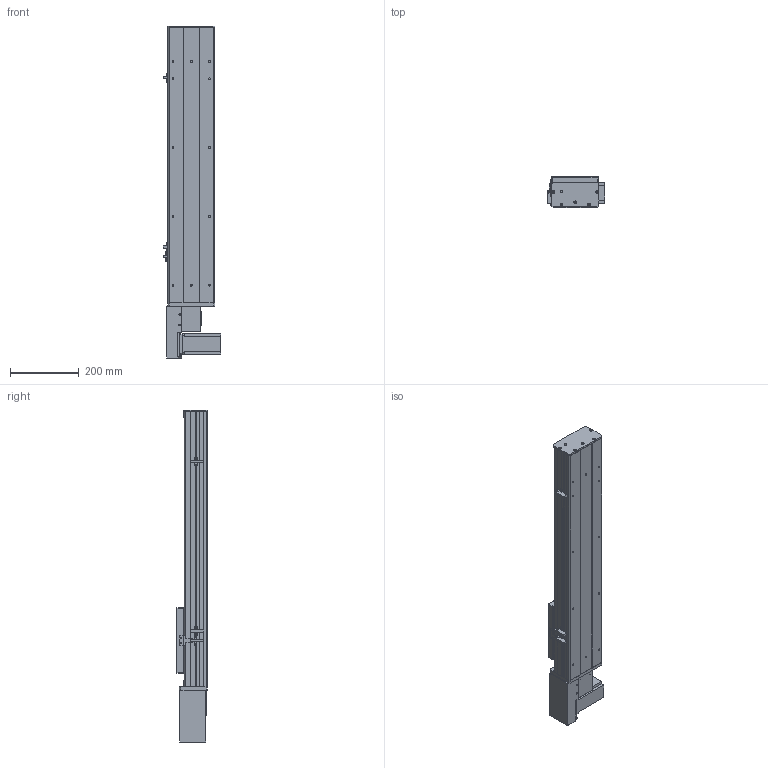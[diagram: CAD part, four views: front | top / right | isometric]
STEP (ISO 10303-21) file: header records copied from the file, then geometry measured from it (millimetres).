
FILE_DESCRIPTION (( 'STEP AP203' ), '1' );
FILE_NAME ('Y135CB-D90-S500-BR-P400W.STEP', '2020-02-18T02:13:29', ( '微软用户' ), ( '微软中国' ), 'SwSTEP 2.0', 'SolidWorks 2017', '' );
FILE_SCHEMA (( 'CONFIG_CONTROL_DESIGN' ));
Length unit declared in the file: millimetre
Products named in the file (18): 0B-萇儂楊擘啣; san松下电机400不带刹车----; Y135CB-耜裔; 5CB --掛极耜裔啣-; 135CB---遴掛极.-; C-詩湍揤踡え-陔; 35CB---喘謫眊楊擘啣; 5C--俋欶; 135CB--詩湍-CE; Y10B-耜蚾蟀諉啣----; C-雄赽釱--; Y100-135俋离換覜ん--; Y俋欶BR----; Y10B--々湍喘謫眊--666; Y135C-陔俋离換覜結え-; 0B-埴倛裔啣; Y135CB-D90-S500-BR-P400W; 0B-源倛裔啣
Assembly tree (21 placements, depth 2):
  Y135CB-D90-S500-BR-P400W
    Y135CB-耜裔
    135CB---遴掛极.-
    35CB---喘謫眊楊擘啣
    Y10B-耜蚾蟀諉啣----
    Y俋欶BR----
    0B-埴倛裔啣
    0B-源倛裔啣
    0B-萇儂楊擘啣
    san松下电机400不带刹车----
    5CB --掛极耜裔啣-  x2
    C-詩湍揤踡え-陔  x2
    135CB--詩湍-CE
    Y100-135俋离換覜ん--  x3
    Y135C-陔俋离換覜結え-
    5C--俋欶
    C-雄赽釱--
    Y10B--々湍喘謫眊--666
Bounding box: 167.5 x 91 x 964.5 mm (x, y, z)
Volume: 3088732.8 mm3; surface area: 1196116.2 mm2
Topology: 21 solids, 21 shells, 937 faces, 2491 edges, 1650 vertices
Faces by surface type: cylinder 463, plane 458, cone 16
Entity records: 28937 total; most frequent: DIRECTION 4803, CARTESIAN_POINT 4724, ORIENTED_EDGE 4458, EDGE_CURVE 2229, AXIS2_PLACEMENT_3D 1745, VERTEX_POINT 1478, VECTOR 1313, LINE 1313
